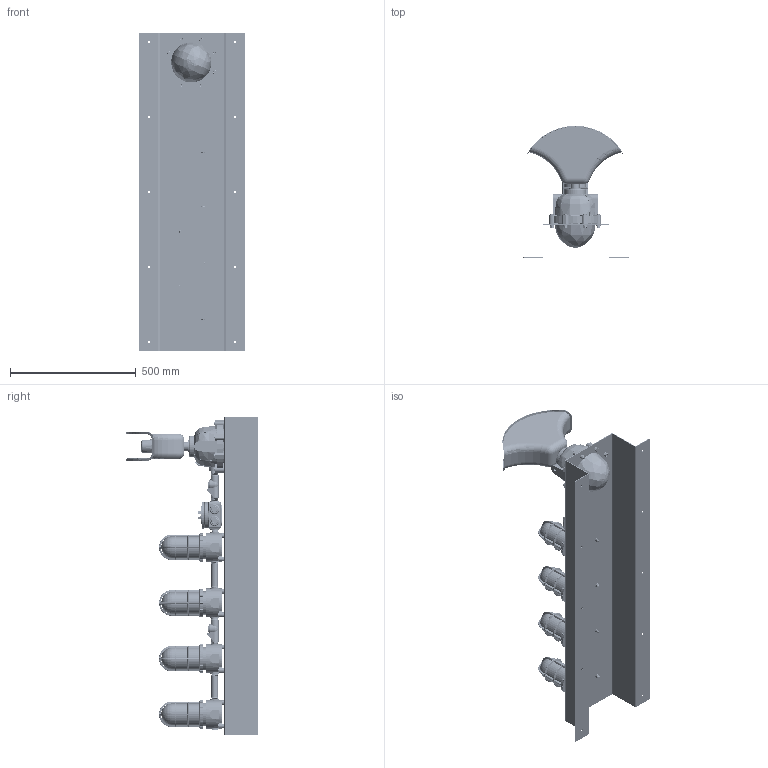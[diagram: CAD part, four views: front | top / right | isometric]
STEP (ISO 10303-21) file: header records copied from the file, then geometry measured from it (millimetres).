
FILE_DESCRIPTION (( 'STEP AP214' ), '1' );
FILE_NAME ('HAL-TL-4X10W-C-PA.STEP', '2015-10-21T20:20:39', ( '' ), ( '' ), 'SwSTEP 2.0', 'SolidWorks 2015', '' );
FILE_SCHEMA (( 'AUTOMOTIVE_DESIGN' ));
Length unit declared in the file: inch
Products named in the file (25): HAL-CRNM-26W-120V-ceiling; EYS Assembly; 3-4 Nipple_44665K191; .5 ends .75 side .25 angle; 6 port .75inch junction box; EPSN-HRN-PA_No Trunnion; Megaphone; Megaphone Speaker; Megaphone Body; hex bolt_ai_HBOLT 0.3125-18x1.5x0.875-S; Horn Body_HAL-TL-4X10W-C-PA; hex nut_ai_HNUT 0.3125-18-D-N; hex bolt_ai_HBOLT 0.3125-24x2x2-S; hex nut_ai_HNUT 0.3750-16-D-N; Horn Body Back; lock washer spring regular_ai_Regular LW 0.375; Horn Body Front; HAL-TL-4X10W-C-PA Base; 4830K197 (1)_4830K197; 44605K673_44605K673; HAL-TL-4X10W-C-PA; 1 inch OD nut_44705K336; HAL-CRNM-26W-120V-ceiling fixture; HAL-TL-4X10W-C-PA spacer; HAL-CRNM-26W-120V-Ceiling
Assembly tree (90 placements, depth 4):
  HAL-TL-4X10W-C-PA
    HAL-TL-4X10W-C-PA Base
    EPSN-HRN-PA_No Trunnion
      Horn Body_HAL-TL-4X10W-C-PA
        Horn Body Front
        Horn Body Back
        hex bolt_ai_HBOLT 0.3125-24x2x2-S  x8
      Megaphone
        Megaphone Body  x2
        Megaphone Speaker
    6 port .75inch junction box
    EYS Assembly
      .5 ends .75 side .25 angle
      3-4 Nipple_44665K191
    3-4 Nipple_44665K191  x4
    HAL-CRNM-26W-120V-Ceiling  x4
      HAL-CRNM-26W-120V-ceiling
      HAL-CRNM-26W-120V-ceiling fixture
    HAL-TL-4X10W-C-PA spacer  x8
    1 inch OD nut_44705K336  x6
    44605K673_44605K673  x2
    .5 ends .75 side .25 angle
    4830K197 (1)_4830K197  x2
    lock washer spring regular_ai_Regular LW 0.375  x16
    hex nut_ai_HNUT 0.3750-16-D-N  x8
    hex nut_ai_HNUT 0.3125-18-D-N  x8
    hex bolt_ai_HBOLT 0.3125-18x1.5x0.875-S  x8
Bounding box: 419.1 x 524.95 x 1270 mm (x, y, z)
Volume: 15032990.4 mm3; surface area: 3332796.4 mm2
Topology: 111 solids, 111 shells, 6624 faces, 16802 edges, 10401 vertices
Faces by surface type: cone 3275, cylinder 1973, plane 941, bspline 244, torus 159, sphere 32
Entity records: 110724 total; most frequent: CARTESIAN_POINT 57028, DIRECTION 9478, ORIENTED_EDGE 9260, EDGE_CURVE 4630, AXIS2_PLACEMENT_3D 3875, VERTEX_POINT 2858, CIRCLE 2083, EDGE_LOOP 1998
